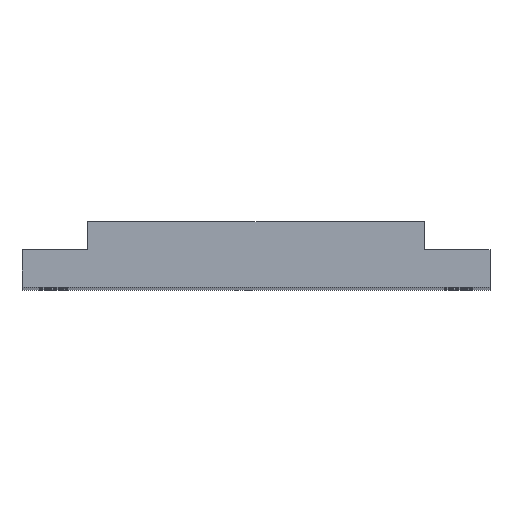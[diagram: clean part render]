
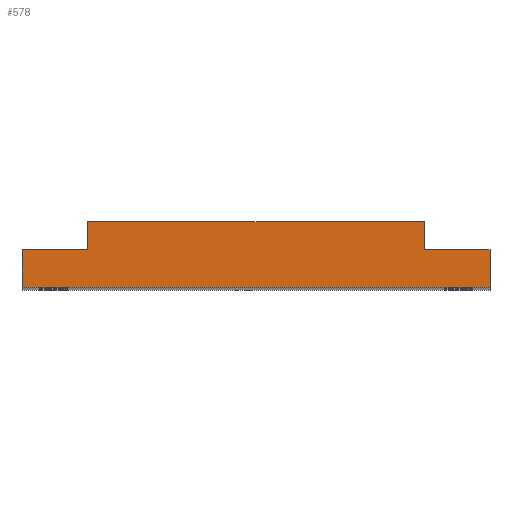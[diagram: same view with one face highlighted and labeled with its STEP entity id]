
A CAD part, top view. The second image highlights one B-rep face of the part: STEP entity #578.
In plain terms, the highlighted planar face has unit normal (0, 0, 1).
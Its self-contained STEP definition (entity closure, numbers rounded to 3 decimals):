
#18 = PLANE ( 'NONE',  #969 ) ;
#21 = EDGE_CURVE ( 'NONE', #1057, #1161, #175, .T. ) ;
#24 = LINE ( 'NONE', #976, #554 ) ;
#37 = VECTOR ( 'NONE', #396, 1000. ) ;
#44 = ORIENTED_EDGE ( 'NONE', *, *, #152, .T. ) ;
#69 = VECTOR ( 'NONE', #1125, 1000. ) ;
#78 = VERTEX_POINT ( 'NONE', #791 ) ;
#108 = LINE ( 'NONE', #935, #69 ) ;
#109 = DIRECTION ( 'NONE',  ( 0., -1., 0. ) ) ;
#132 = EDGE_CURVE ( 'NONE', #477, #376, #290, .T. ) ;
#147 = FACE_OUTER_BOUND ( 'NONE', #675, .T. ) ;
#152 = EDGE_CURVE ( 'NONE', #937, #315, #1017, .T. ) ;
#162 = LINE ( 'NONE', #1129, #689 ) ;
#175 = LINE ( 'NONE', #403, #37 ) ;
#181 = CARTESIAN_POINT ( 'NONE',  ( 27., 7.5, 288. ) ) ;
#190 = VECTOR ( 'NONE', #514, 1000. ) ;
#206 = VECTOR ( 'NONE', #1131, 1000. ) ;
#255 = EDGE_CURVE ( 'NONE', #78, #477, #943, .T. ) ;
#273 = VERTEX_POINT ( 'NONE', #992 ) ;
#290 = LINE ( 'NONE', #599, #565 ) ;
#315 = VERTEX_POINT ( 'NONE', #1186 ) ;
#321 = VECTOR ( 'NONE', #344, 1000. ) ;
#328 = ORIENTED_EDGE ( 'NONE', *, *, #571, .T. ) ;
#332 = CARTESIAN_POINT ( 'NONE',  ( 27., 7.5, 288. ) ) ;
#344 = DIRECTION ( 'NONE',  ( 0., -1., 0. ) ) ;
#370 = LINE ( 'NONE', #577, #206 ) ;
#376 = VERTEX_POINT ( 'NONE', #916 ) ;
#391 = DIRECTION ( 'NONE',  ( 0., 0., 1. ) ) ;
#396 = DIRECTION ( 'NONE',  ( 0., 1., 0. ) ) ;
#403 = CARTESIAN_POINT ( 'NONE',  ( 37.5, -3., 288. ) ) ;
#450 = EDGE_CURVE ( 'NONE', #315, #1057, #108, .T. ) ;
#453 = ORIENTED_EDGE ( 'NONE', *, *, #752, .T. ) ;
#475 = ORIENTED_EDGE ( 'NONE', *, *, #450, .T. ) ;
#477 = VERTEX_POINT ( 'NONE', #181 ) ;
#514 = DIRECTION ( 'NONE',  ( 0., 1., 0. ) ) ;
#516 = DIRECTION ( 'NONE',  ( -1., 0., 0. ) ) ;
#541 = ORIENTED_EDGE ( 'NONE', *, *, #132, .T. ) ;
#554 = VECTOR ( 'NONE', #877, 1000. ) ;
#565 = VECTOR ( 'NONE', #516, 1000. ) ;
#571 = EDGE_CURVE ( 'NONE', #376, #273, #162, .T. ) ;
#577 = CARTESIAN_POINT ( 'NONE',  ( 37.5, 3., 288. ) ) ;
#578 = ADVANCED_FACE ( 'NONE', ( #147 ), #18, .T. ) ;
#599 = CARTESIAN_POINT ( 'NONE',  ( -27., 7.5, 288. ) ) ;
#620 = CARTESIAN_POINT ( 'NONE',  ( 37.5, -3., 288. ) ) ;
#652 = EDGE_CURVE ( 'NONE', #1161, #78, #370, .T. ) ;
#675 = EDGE_LOOP ( 'NONE', ( #44, #475, #803, #830, #1132, #541, #328, #453 ) ) ;
#689 = VECTOR ( 'NONE', #109, 1000. ) ;
#718 = CARTESIAN_POINT ( 'NONE',  ( -37.5, -3., 288. ) ) ;
#738 = CARTESIAN_POINT ( 'NONE',  ( 37.5, 3., 288. ) ) ;
#752 = EDGE_CURVE ( 'NONE', #273, #937, #24, .T. ) ;
#765 = CARTESIAN_POINT ( 'NONE',  ( 0., 0., 288. ) ) ;
#772 = DIRECTION ( 'NONE',  ( 1., 0., 0. ) ) ;
#791 = CARTESIAN_POINT ( 'NONE',  ( 27., 3., 288. ) ) ;
#803 = ORIENTED_EDGE ( 'NONE', *, *, #21, .T. ) ;
#830 = ORIENTED_EDGE ( 'NONE', *, *, #652, .T. ) ;
#877 = DIRECTION ( 'NONE',  ( -1., 0., 0. ) ) ;
#886 = CARTESIAN_POINT ( 'NONE',  ( -37.5, 3., 288. ) ) ;
#916 = CARTESIAN_POINT ( 'NONE',  ( -27., 7.5, 288. ) ) ;
#935 = CARTESIAN_POINT ( 'NONE',  ( 37.5, -3., 288. ) ) ;
#937 = VERTEX_POINT ( 'NONE', #886 ) ;
#943 = LINE ( 'NONE', #332, #190 ) ;
#969 = AXIS2_PLACEMENT_3D ( 'NONE', #765, #391, #772 ) ;
#976 = CARTESIAN_POINT ( 'NONE',  ( -27., 3., 288. ) ) ;
#992 = CARTESIAN_POINT ( 'NONE',  ( -27., 3., 288. ) ) ;
#1017 = LINE ( 'NONE', #718, #321 ) ;
#1057 = VERTEX_POINT ( 'NONE', #620 ) ;
#1125 = DIRECTION ( 'NONE',  ( 1., 0., 0. ) ) ;
#1129 = CARTESIAN_POINT ( 'NONE',  ( -27., 7.5, 288. ) ) ;
#1131 = DIRECTION ( 'NONE',  ( -1., 0., 0. ) ) ;
#1132 = ORIENTED_EDGE ( 'NONE', *, *, #255, .T. ) ;
#1161 = VERTEX_POINT ( 'NONE', #738 ) ;
#1186 = CARTESIAN_POINT ( 'NONE',  ( -37.5, -3., 288. ) ) ;
